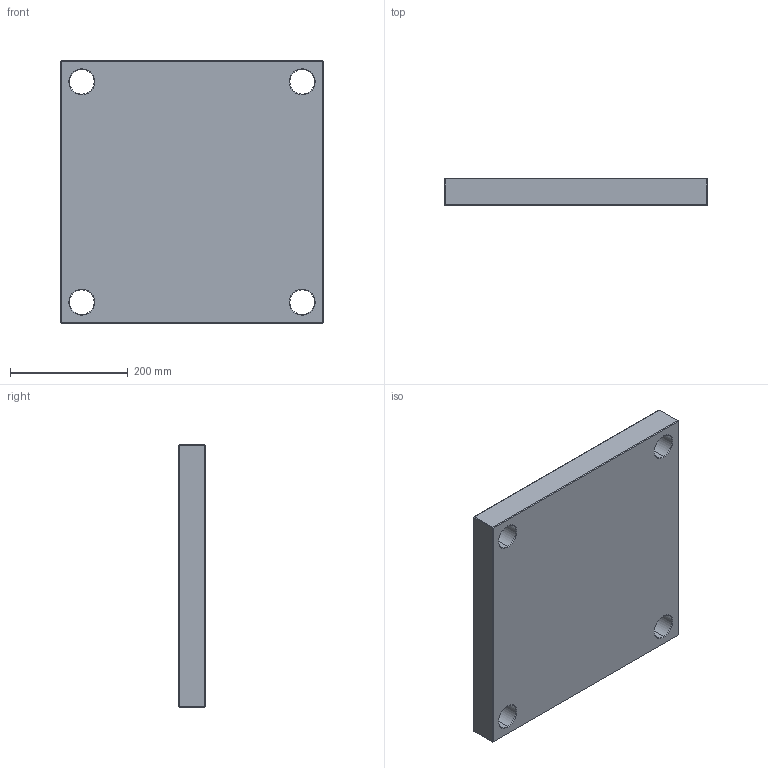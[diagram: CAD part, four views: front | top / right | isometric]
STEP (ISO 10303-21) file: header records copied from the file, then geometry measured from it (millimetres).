
FILE_DESCRIPTION (( 'STEP AP214' ), '1' );
FILE_NAME ('PC-446x446x46.STEP', '2020-04-21T17:35:59', ( 'August' ), ( '' ), 'SwSTEP 2.0', 'SolidWorks 2018', '' );
FILE_SCHEMA (( 'AUTOMOTIVE_DESIGN' ));
Length unit declared in the file: millimetre
Products named in the file (1): PC-446x446x46
Bounding box: 446 x 46 x 446 mm (x, y, z)
Volume: 8861871.5 mm3; surface area: 495626.7 mm2
Topology: 1 solids, 1 shells, 82 faces, 168 edges, 96 vertices
Faces by surface type: plane 34, cone 24, cylinder 24
Entity records: 2170 total; most frequent: DIRECTION 406, CARTESIAN_POINT 347, ORIENTED_EDGE 336, EDGE_CURVE 168, AXIS2_PLACEMENT_3D 155, EDGE_LOOP 98, VERTEX_POINT 96, LINE 96
